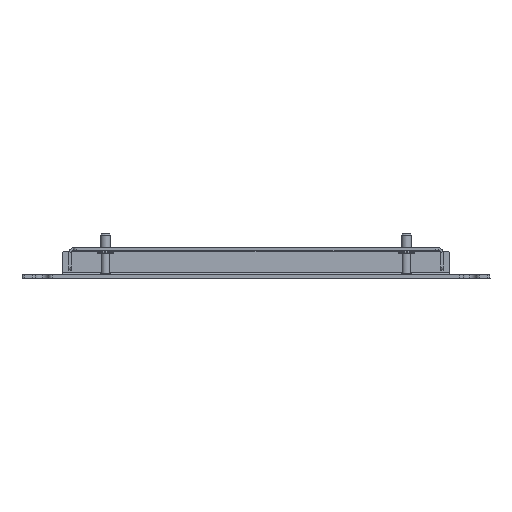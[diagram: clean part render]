
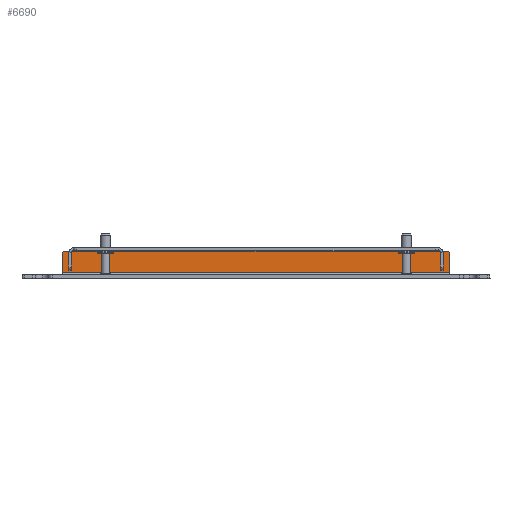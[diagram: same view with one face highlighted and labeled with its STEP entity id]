
A CAD part, front view. The second image highlights one B-rep face of the part: STEP entity #6690.
In plain terms, the highlighted planar face has unit normal (0, -1, 0) as drawn and (1, 0, 0) by its records, which use the part's own axes.
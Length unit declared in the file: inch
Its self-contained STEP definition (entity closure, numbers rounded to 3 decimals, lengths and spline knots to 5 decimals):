
#58 = CARTESIAN_POINT ( 'NONE',  ( -0.6845, 0.9, -7.15 ) ) ;
#178 = DIRECTION ( 'NONE',  ( 0., 0., 1. ) ) ;
#280 = EDGE_CURVE ( 'NONE', #6296, #1953, #6816, .T. ) ;
#297 = EDGE_LOOP ( 'NONE', ( #4239, #3088, #2513, #4682, #1585, #3480 ) ) ;
#409 = LINE ( 'NONE', #2053, #6748 ) ;
#434 = PLANE ( 'NONE',  #5285 ) ;
#440 = CARTESIAN_POINT ( 'NONE',  ( -0.6845, 0.208, 7.25 ) ) ;
#769 = CARTESIAN_POINT ( 'NONE',  ( -0.6845, 1., -7.15 ) ) ;
#811 = VERTEX_POINT ( 'NONE', #6912 ) ;
#822 = CARTESIAN_POINT ( 'NONE',  ( -0.6845, 0.208, -7.25 ) ) ;
#921 = VERTEX_POINT ( 'NONE', #2717 ) ;
#1048 = LINE ( 'NONE', #1338, #1323 ) ;
#1143 = DIRECTION ( 'NONE',  ( 1., 0., 0. ) ) ;
#1245 = VERTEX_POINT ( 'NONE', #6952 ) ;
#1323 = VECTOR ( 'NONE', #178, 39.37008 ) ;
#1338 = CARTESIAN_POINT ( 'NONE',  ( -0.6845, 1., -8.75 ) ) ;
#1441 = EDGE_CURVE ( 'NONE', #811, #1953, #409, .T. ) ;
#1585 = ORIENTED_EDGE ( 'NONE', *, *, #1441, .T. ) ;
#1605 = AXIS2_PLACEMENT_3D ( 'NONE', #5268, #4757, #1876 ) ;
#1632 = FACE_OUTER_BOUND ( 'NONE', #297, .T. ) ;
#1675 = EDGE_CURVE ( 'NONE', #6509, #921, #1048, .T. ) ;
#1701 = DIRECTION ( 'NONE',  ( 0., 0., 1. ) ) ;
#1876 = DIRECTION ( 'NONE',  ( 0., 0., 1. ) ) ;
#1934 = CIRCLE ( 'NONE', #5592, 0.1 ) ;
#1953 = VERTEX_POINT ( 'NONE', #440 ) ;
#2053 = CARTESIAN_POINT ( 'NONE',  ( -0.6845, 0., 7.25 ) ) ;
#2141 = DIRECTION ( 'NONE',  ( 0., 1., 0. ) ) ;
#2474 = VECTOR ( 'NONE', #2141, 39.37008 ) ;
#2513 = ORIENTED_EDGE ( 'NONE', *, *, #1675, .T. ) ;
#2717 = CARTESIAN_POINT ( 'NONE',  ( -0.6845, 1., 7.15 ) ) ;
#2810 = CARTESIAN_POINT ( 'NONE',  ( -0.6845, 0.208, -8.75 ) ) ;
#2905 = CIRCLE ( 'NONE', #1605, 0.1 ) ;
#3003 = EDGE_CURVE ( 'NONE', #1245, #6509, #1934, .T. ) ;
#3077 = VECTOR ( 'NONE', #5057, 39.37008 ) ;
#3088 = ORIENTED_EDGE ( 'NONE', *, *, #3003, .T. ) ;
#3480 = ORIENTED_EDGE ( 'NONE', *, *, #280, .F. ) ;
#3667 = EDGE_CURVE ( 'NONE', #921, #811, #2905, .T. ) ;
#3813 = CARTESIAN_POINT ( 'NONE',  ( -0.6845, 0., -8.75 ) ) ;
#3828 = DIRECTION ( 'NONE',  ( 0., -1., 0. ) ) ;
#4239 = ORIENTED_EDGE ( 'NONE', *, *, #7094, .T. ) ;
#4682 = ORIENTED_EDGE ( 'NONE', *, *, #3667, .T. ) ;
#4757 = DIRECTION ( 'NONE',  ( 1., 0., 0. ) ) ;
#4999 = DIRECTION ( 'NONE',  ( -1., 0., 0. ) ) ;
#5057 = DIRECTION ( 'NONE',  ( 0., 0., 1. ) ) ;
#5268 = CARTESIAN_POINT ( 'NONE',  ( -0.6845, 0.9, 7.15 ) ) ;
#5285 = AXIS2_PLACEMENT_3D ( 'NONE', #3813, #4999, #6649 ) ;
#5465 = CARTESIAN_POINT ( 'NONE',  ( -0.6845, 0., -7.25 ) ) ;
#5592 = AXIS2_PLACEMENT_3D ( 'NONE', #58, #1143, #1701 ) ;
#6296 = VERTEX_POINT ( 'NONE', #822 ) ;
#6509 = VERTEX_POINT ( 'NONE', #769 ) ;
#6649 = DIRECTION ( 'NONE',  ( 0., 0., 1. ) ) ;
#6690 = ADVANCED_FACE ( 'NONE', ( #1632 ), #434, .F. ) ;
#6748 = VECTOR ( 'NONE', #3828, 39.37008 ) ;
#6816 = LINE ( 'NONE', #2810, #3077 ) ;
#6912 = CARTESIAN_POINT ( 'NONE',  ( -0.6845, 0.9, 7.25 ) ) ;
#6952 = CARTESIAN_POINT ( 'NONE',  ( -0.6845, 0.9, -7.25 ) ) ;
#7094 = EDGE_CURVE ( 'NONE', #6296, #1245, #7197, .T. ) ;
#7197 = LINE ( 'NONE', #5465, #2474 ) ;
